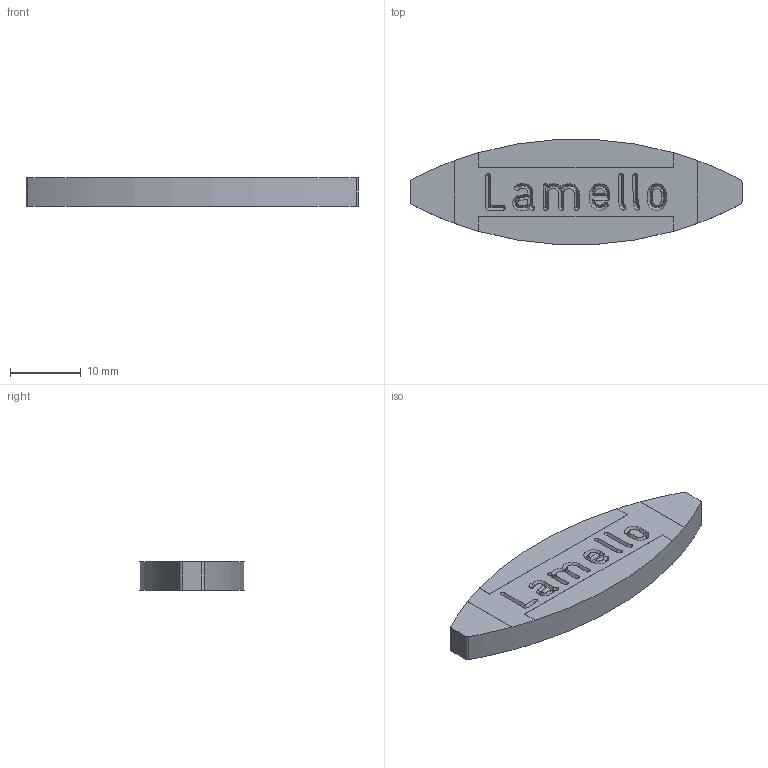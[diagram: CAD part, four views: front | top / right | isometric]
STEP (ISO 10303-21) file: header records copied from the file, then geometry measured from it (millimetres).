
FILE_DESCRIPTION(/* description */ (''),/* implementation_level */ '2;1');
FILE_NAME(/* name */ 'C:\Users\matthiask.LAMELLONET\Desktop\Original_Holzlamelle_Groesse_0.stp',/* time_stamp */ '2021-07-08T10:07:50+02:00',/* author */ ('matthiask'),/* organization */ (''),/* preprocessor_version */ 'ST-DEVELOPER v18',/* originating_system */ 'Autodesk Inventor 2020',/* authorisation */ '');
FILE_SCHEMA (('AUTOMOTIVE_DESIGN { 1 0 10303 214 3 1 1 }'));
Length unit declared in the file: millimetre
Products named in the file (1): Lamelle -0-
Bounding box: 47 x 14.84 x 4.02 mm (x, y, z)
Volume: 2092.8 mm3; surface area: 1512.4 mm2
Topology: 1 solids, 1 shells, 138 faces, 366 edges, 243 vertices
Faces by surface type: plane 83, cone 49, cylinder 6
Entity records: 4341 total; most frequent: CARTESIAN_POINT 766, DIRECTION 760, ORIENTED_EDGE 730, EDGE_CURVE 365, AXIS2_PLACEMENT_3D 264, VERTEX_POINT 243, LINE 232, VECTOR 232
